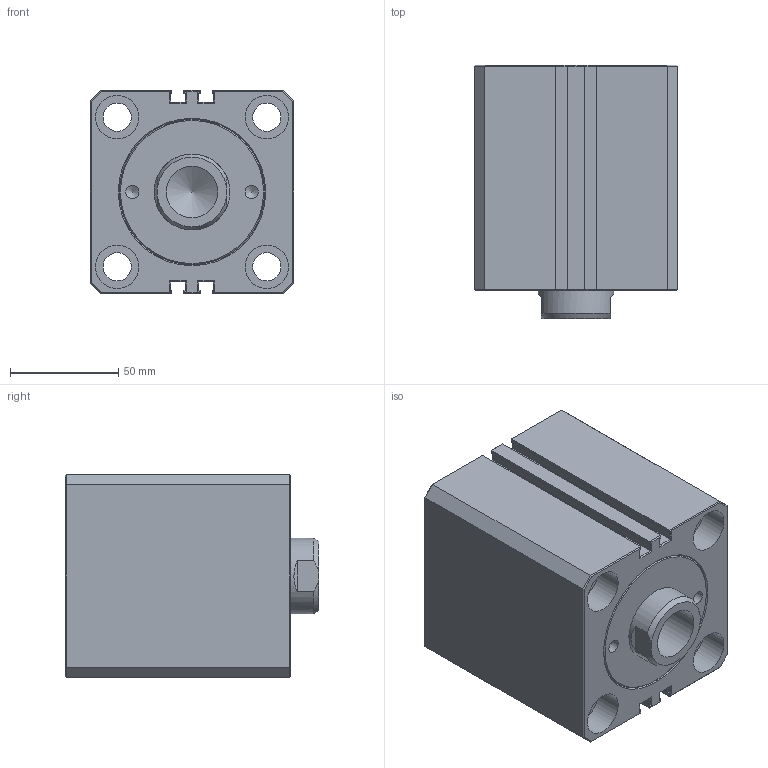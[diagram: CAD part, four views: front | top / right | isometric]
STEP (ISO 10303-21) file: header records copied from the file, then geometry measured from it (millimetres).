
FILE_DESCRIPTION(/* description */ ('Unknown'),/* implementation_level */ '2;1');
FILE_NAME(/* name */ 'HTM140-SD63X20N',/* time_stamp */ '2022-09-01T01:33:43+08:00',/* author */ ('Unknown'),/* organization */ ('Unknown'),/* preprocessor_version */ 'ST-DEVELOPER v16.7',/* originating_system */ 'DEX',/* authorisation */ $);
FILE_SCHEMA (('AUTOMOTIVE_DESIGN {1 0 10303 214 3 1 1}'));
Length unit declared in the file: millimetre
Products named in the file (1): HTM140-SD63X20N
Bounding box: 94 x 117 x 94 mm (x, y, z)
Volume: 817617.9 mm3; surface area: 84017 mm2
Topology: 1 solids, 1 shells, 187 faces, 428 edges, 257 vertices
Faces by surface type: plane 140, cylinder 19, cone 16, bspline 12
Full cylindrical faces by diameter (mm): 6 x1, 6.1 x2, 12.301 x2, 13 x4, 20 x8, 23.752 x1, 35 x1
Entity records: 6353 total; most frequent: CARTESIAN_POINT 1061, ORIENTED_EDGE 778, DIRECTION 768, EDGE_CURVE 389, LINE 294, VECTOR 294, VERTEX_POINT 248, FACE_BOUND 239
